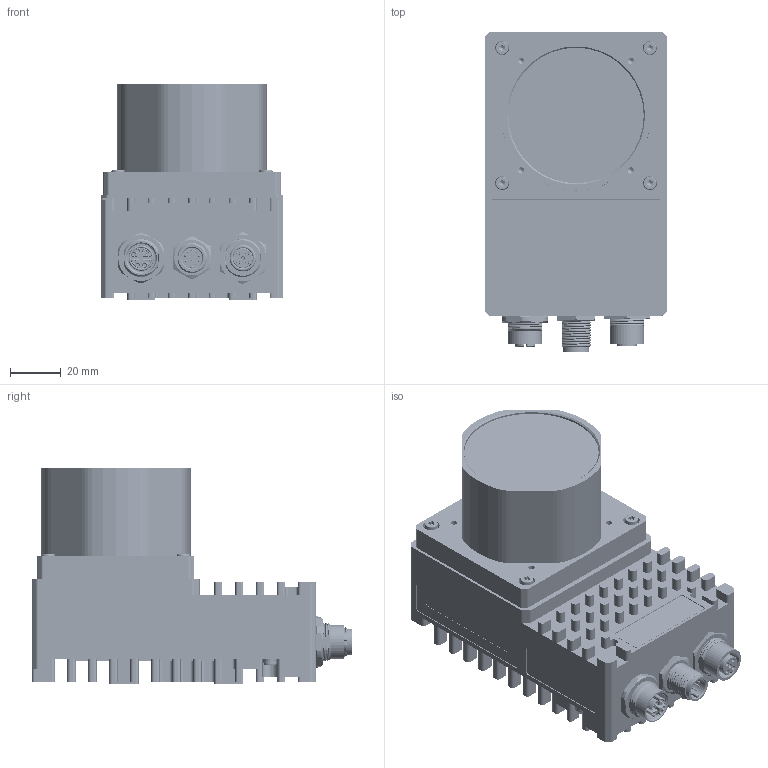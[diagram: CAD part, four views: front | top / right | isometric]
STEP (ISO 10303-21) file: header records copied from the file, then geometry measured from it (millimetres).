
FILE_DESCRIPTION (( 'STEP AP214' ), '1' );
FILE_NAME ('1GSC - Smart Cam - Main Assembly - LT4632_2026-08-28.STEP', '2026-08-28T06:10:28', ( '' ), ( '' ), 'SwSTEP 2.0', 'SolidWorks 2025', '' );
FILE_SCHEMA (( 'AUTOMOTIVE_DESIGN' ));
Length unit declared in the file: millimetre
Products named in the file (1): 1GSC - Smart Cam - Main Assembly - LT4632_2026-08-28
Bounding box: 72 x 126.05 x 85.2 mm (x, y, z)
Volume: 329158.9 mm3; surface area: 124570.1 mm2
Topology: 54 solids, 59 shells, 3312 faces, 8393 edges, 5591 vertices
Faces by surface type: plane 1510, cylinder 1366, bspline 172, cone 169, torus 83, sphere 12
Full cylindrical faces by diameter (mm): 0.6 x251, 0.73 x8, 0.9 x24, 0.95 x1, 1.2 x12, 1.29 x8, 1.3 x5, 1.8 x5, 2 x1, 2.05 x2, 2.5 x22, 3 x16, 3.2 x8, 3.3 x4, 3.5 x2, 5.5 x4, 6.5 x4, 8.1 x1, 8.25 x2, 9.5 x2, 9.6 x1, 10.5 x2, 11 x2, 11.1 x7, 12.05 x1, 12.7 x1, 13.4 x4, 14 x2, 15.2 x1, 17.2 x2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
Entity records: 174357 total; most frequent: CARTESIAN_POINT 69878, DIRECTION 15851, ORIENTED_EDGE 15506, EDGE_CURVE 7753, AXIS2_PLACEMENT_3D 5980, VERTEX_POINT 5486, EDGE_LOOP 4265, LINE 3891
